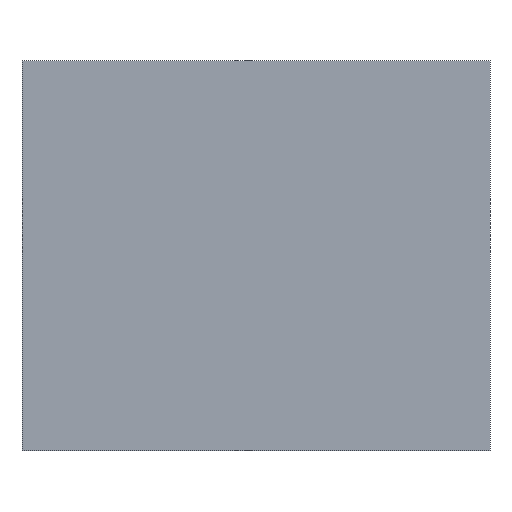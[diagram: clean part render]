
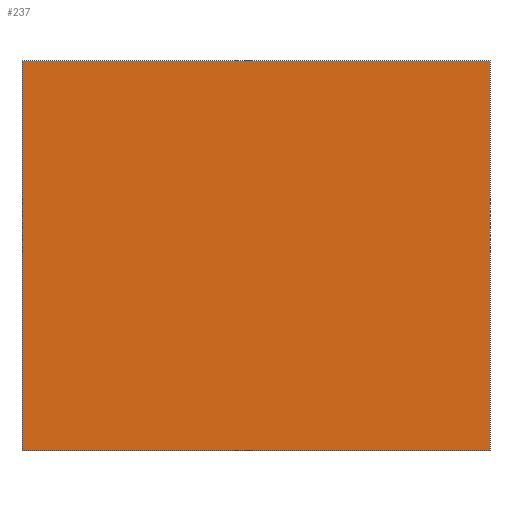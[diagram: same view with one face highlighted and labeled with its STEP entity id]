
A CAD part, front view. The second image highlights one B-rep face of the part: STEP entity #237.
In plain terms, the highlighted planar face has unit normal (0, -1, 0).
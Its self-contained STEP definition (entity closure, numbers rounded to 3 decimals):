
#21 = EDGE_CURVE('',#22,#24,#26,.T.);
#22 = VERTEX_POINT('',#23);
#23 = CARTESIAN_POINT('',(-186.,-38.,12.));
#24 = VERTEX_POINT('',#25);
#25 = CARTESIAN_POINT('',(-186.,-38.,17.));
#26 = SURFACE_CURVE('',#27,(#31,#43),.PCURVE_S1.);
#27 = LINE('',#28,#29);
#28 = CARTESIAN_POINT('',(-186.,-38.,12.));
#29 = VECTOR('',#30,1.);
#30 = DIRECTION('',(0.,0.,1.));
#31 = PCURVE('',#32,#37);
#32 = PLANE('',#33);
#33 = AXIS2_PLACEMENT_3D('',#34,#35,#36);
#34 = CARTESIAN_POINT('',(-186.,-38.,12.));
#35 = DIRECTION('',(1.,0.,-0.));
#36 = DIRECTION('',(0.,0.,1.));
#37 = DEFINITIONAL_REPRESENTATION('',(#38),#42);
#38 = LINE('',#39,#40);
#39 = CARTESIAN_POINT('',(0.,0.));
#40 = VECTOR('',#41,1.);
#41 = DIRECTION('',(1.,0.));
#42 = ( GEOMETRIC_REPRESENTATION_CONTEXT(2) 
PARAMETRIC_REPRESENTATION_CONTEXT() REPRESENTATION_CONTEXT('2D SPACE',''
  ) );
#43 = PCURVE('',#44,#49);
#44 = PLANE('',#45);
#45 = AXIS2_PLACEMENT_3D('',#46,#47,#48);
#46 = CARTESIAN_POINT('',(-186.,-38.,12.));
#47 = DIRECTION('',(-0.,1.,0.));
#48 = DIRECTION('',(0.,0.,1.));
#49 = DEFINITIONAL_REPRESENTATION('',(#50),#54);
#50 = LINE('',#51,#52);
#51 = CARTESIAN_POINT('',(0.,0.));
#52 = VECTOR('',#53,1.);
#53 = DIRECTION('',(1.,0.));
#54 = ( GEOMETRIC_REPRESENTATION_CONTEXT(2) 
PARAMETRIC_REPRESENTATION_CONTEXT() REPRESENTATION_CONTEXT('2D SPACE',''
  ) );
#72 = PLANE('',#73);
#73 = AXIS2_PLACEMENT_3D('',#74,#75,#76);
#74 = CARTESIAN_POINT('',(-186.,-38.,12.));
#75 = DIRECTION('',(0.,0.,1.));
#76 = DIRECTION('',(1.,0.,-0.));
#126 = PLANE('',#127);
#127 = AXIS2_PLACEMENT_3D('',#128,#129,#130);
#128 = CARTESIAN_POINT('',(-186.,-38.,17.));
#129 = DIRECTION('',(0.,0.,1.));
#130 = DIRECTION('',(1.,0.,-0.));
#141 = EDGE_CURVE('',#142,#144,#146,.T.);
#142 = VERTEX_POINT('',#143);
#143 = CARTESIAN_POINT('',(-180.,-38.,12.));
#144 = VERTEX_POINT('',#145);
#145 = CARTESIAN_POINT('',(-180.,-38.,17.));
#146 = SURFACE_CURVE('',#147,(#151,#163),.PCURVE_S1.);
#147 = LINE('',#148,#149);
#148 = CARTESIAN_POINT('',(-180.,-38.,12.));
#149 = VECTOR('',#150,1.);
#150 = DIRECTION('',(0.,0.,1.));
#151 = PCURVE('',#152,#157);
#152 = PLANE('',#153);
#153 = AXIS2_PLACEMENT_3D('',#154,#155,#156);
#154 = CARTESIAN_POINT('',(-180.,-38.,12.));
#155 = DIRECTION('',(1.,0.,-0.));
#156 = DIRECTION('',(0.,0.,1.));
#157 = DEFINITIONAL_REPRESENTATION('',(#158),#162);
#158 = LINE('',#159,#160);
#159 = CARTESIAN_POINT('',(0.,0.));
#160 = VECTOR('',#161,1.);
#161 = DIRECTION('',(1.,0.));
#162 = ( GEOMETRIC_REPRESENTATION_CONTEXT(2) 
PARAMETRIC_REPRESENTATION_CONTEXT() REPRESENTATION_CONTEXT('2D SPACE',''
  ) );
#163 = PCURVE('',#44,#164);
#164 = DEFINITIONAL_REPRESENTATION('',(#165),#169);
#165 = LINE('',#166,#167);
#166 = CARTESIAN_POINT('',(0.,6.));
#167 = VECTOR('',#168,1.);
#168 = DIRECTION('',(1.,0.));
#169 = ( GEOMETRIC_REPRESENTATION_CONTEXT(2) 
PARAMETRIC_REPRESENTATION_CONTEXT() REPRESENTATION_CONTEXT('2D SPACE',''
  ) );
#237 = ADVANCED_FACE('',(#238),#44,.F.);
#238 = FACE_BOUND('',#239,.F.);
#239 = EDGE_LOOP('',(#240,#261,#262,#283));
#240 = ORIENTED_EDGE('',*,*,#241,.F.);
#241 = EDGE_CURVE('',#22,#142,#242,.T.);
#242 = SURFACE_CURVE('',#243,(#247,#254),.PCURVE_S1.);
#243 = LINE('',#244,#245);
#244 = CARTESIAN_POINT('',(-186.,-38.,12.));
#245 = VECTOR('',#246,1.);
#246 = DIRECTION('',(1.,0.,-0.));
#247 = PCURVE('',#44,#248);
#248 = DEFINITIONAL_REPRESENTATION('',(#249),#253);
#249 = LINE('',#250,#251);
#250 = CARTESIAN_POINT('',(0.,0.));
#251 = VECTOR('',#252,1.);
#252 = DIRECTION('',(0.,1.));
#253 = ( GEOMETRIC_REPRESENTATION_CONTEXT(2) 
PARAMETRIC_REPRESENTATION_CONTEXT() REPRESENTATION_CONTEXT('2D SPACE',''
  ) );
#254 = PCURVE('',#72,#255);
#255 = DEFINITIONAL_REPRESENTATION('',(#256),#260);
#256 = LINE('',#257,#258);
#257 = CARTESIAN_POINT('',(0.,0.));
#258 = VECTOR('',#259,1.);
#259 = DIRECTION('',(1.,0.));
#260 = ( GEOMETRIC_REPRESENTATION_CONTEXT(2) 
PARAMETRIC_REPRESENTATION_CONTEXT() REPRESENTATION_CONTEXT('2D SPACE',''
  ) );
#261 = ORIENTED_EDGE('',*,*,#21,.T.);
#262 = ORIENTED_EDGE('',*,*,#263,.T.);
#263 = EDGE_CURVE('',#24,#144,#264,.T.);
#264 = SURFACE_CURVE('',#265,(#269,#276),.PCURVE_S1.);
#265 = LINE('',#266,#267);
#266 = CARTESIAN_POINT('',(-186.,-38.,17.));
#267 = VECTOR('',#268,1.);
#268 = DIRECTION('',(1.,0.,-0.));
#269 = PCURVE('',#44,#270);
#270 = DEFINITIONAL_REPRESENTATION('',(#271),#275);
#271 = LINE('',#272,#273);
#272 = CARTESIAN_POINT('',(5.,0.));
#273 = VECTOR('',#274,1.);
#274 = DIRECTION('',(0.,1.));
#275 = ( GEOMETRIC_REPRESENTATION_CONTEXT(2) 
PARAMETRIC_REPRESENTATION_CONTEXT() REPRESENTATION_CONTEXT('2D SPACE',''
  ) );
#276 = PCURVE('',#126,#277);
#277 = DEFINITIONAL_REPRESENTATION('',(#278),#282);
#278 = LINE('',#279,#280);
#279 = CARTESIAN_POINT('',(0.,0.));
#280 = VECTOR('',#281,1.);
#281 = DIRECTION('',(1.,0.));
#282 = ( GEOMETRIC_REPRESENTATION_CONTEXT(2) 
PARAMETRIC_REPRESENTATION_CONTEXT() REPRESENTATION_CONTEXT('2D SPACE',''
  ) );
#283 = ORIENTED_EDGE('',*,*,#141,.F.);
